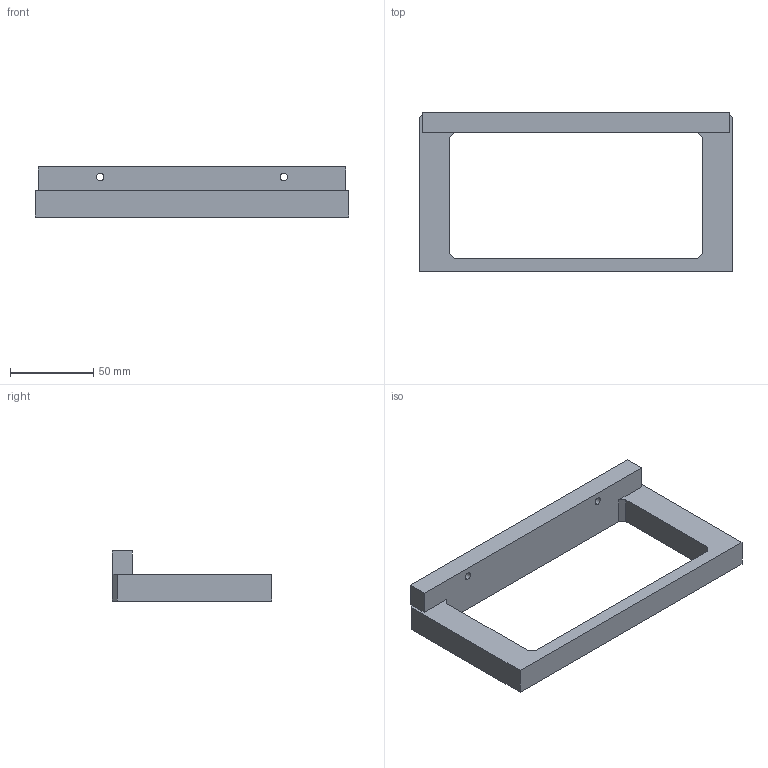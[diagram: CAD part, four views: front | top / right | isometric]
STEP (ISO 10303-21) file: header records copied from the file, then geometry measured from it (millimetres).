
FILE_DESCRIPTION (( 'STEP AP203' ), '1' );
FILE_NAME ('01_side_trestle.step', '2026-10-15T09:34:49', ( '' ), ( '' ), 'SwSTEP 2.0', 'SolidWorks 2025', '' );
FILE_SCHEMA (( 'CONFIG_CONTROL_DESIGN' ));
Length unit declared in the file: millimetre
Products named in the file (1): 01_side_trestle
Bounding box: 188 x 95.3 x 30 mm (x, y, z)
Volume: 134207.2 mm3; surface area: 34895.9 mm2
Topology: 1 solids, 1 shells, 25 faces, 72 edges, 48 vertices
Faces by surface type: plane 21, cylinder 4
Entity records: 903 total; most frequent: CARTESIAN_POINT 146, ORIENTED_EDGE 144, DIRECTION 132, EDGE_CURVE 72, LINE 64, VECTOR 64, VERTEX_POINT 48, AXIS2_PLACEMENT_3D 34
